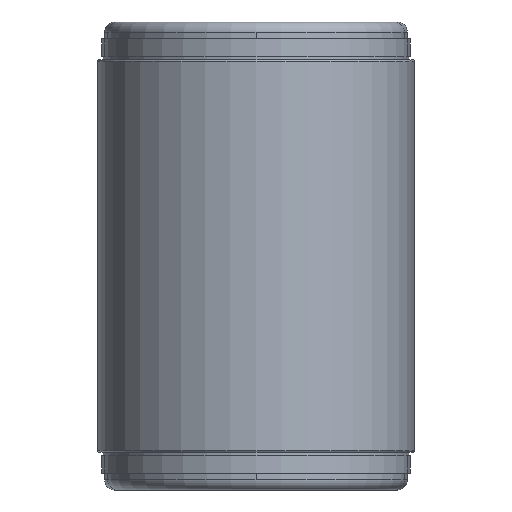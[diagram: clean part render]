
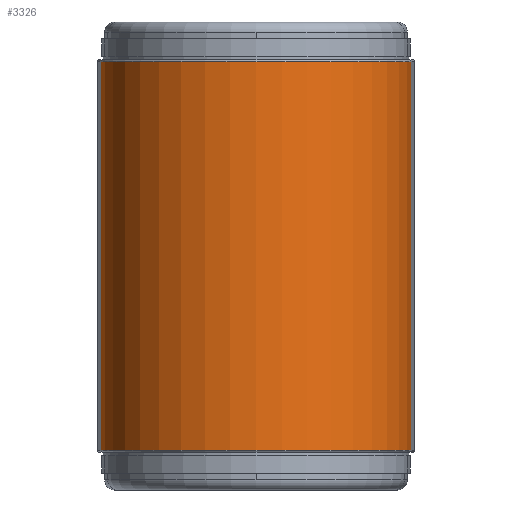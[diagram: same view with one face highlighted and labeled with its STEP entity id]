
A CAD part, left-side view. The second image highlights one B-rep face of the part: STEP entity #3326.
In plain terms, the highlighted cylindrical face has radius 75.3 mm (diameter 150.6 mm), a partial arc.
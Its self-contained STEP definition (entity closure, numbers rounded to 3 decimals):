
#149 = CARTESIAN_POINT ( 'NONE',  ( -4.374, 75.173, -94.25 ) ) ;
#422 = DIRECTION ( 'NONE',  ( 0., 0., 1. ) ) ;
#445 = ORIENTED_EDGE ( 'NONE', *, *, #4988, .F. ) ;
#792 = CYLINDRICAL_SURFACE ( 'NONE', #8493, 75.3 ) ;
#825 = CIRCLE ( 'NONE', #3563, 75.3 ) ;
#832 = ORIENTED_EDGE ( 'NONE', *, *, #4532, .T. ) ;
#836 = VERTEX_POINT ( 'NONE', #149 ) ;
#841 = DIRECTION ( 'NONE',  ( 1., 0., 0. ) ) ;
#939 = DIRECTION ( 'NONE',  ( 0., 0., -1. ) ) ;
#1203 = FACE_OUTER_BOUND ( 'NONE', #4446, .T. ) ;
#1366 = DIRECTION ( 'NONE',  ( 1., 0., 0. ) ) ;
#1445 = ORIENTED_EDGE ( 'NONE', *, *, #6999, .F. ) ;
#1890 = VECTOR ( 'NONE', #4626, 1000. ) ;
#2123 = VERTEX_POINT ( 'NONE', #7919 ) ;
#2347 = CIRCLE ( 'NONE', #3741, 75.3 ) ;
#2642 = DIRECTION ( 'NONE',  ( 0., 0., 1. ) ) ;
#2901 = VERTEX_POINT ( 'NONE', #7186 ) ;
#3096 = VERTEX_POINT ( 'NONE', #7289 ) ;
#3302 = CARTESIAN_POINT ( 'NONE',  ( -4.374, -75.173, 94.25 ) ) ;
#3326 = ADVANCED_FACE ( 'NONE', ( #1203 ), #792, .T. ) ;
#3563 = AXIS2_PLACEMENT_3D ( 'NONE', #7247, #422, #5178 ) ;
#3741 = AXIS2_PLACEMENT_3D ( 'NONE', #5456, #2642, #1366 ) ;
#4446 = EDGE_LOOP ( 'NONE', ( #832, #6620, #1445, #445 ) ) ;
#4532 = EDGE_CURVE ( 'NONE', #2123, #836, #7663, .T. ) ;
#4626 = DIRECTION ( 'NONE',  ( 0., 0., -1. ) ) ;
#4883 = DIRECTION ( 'NONE',  ( 0., 0., 1. ) ) ;
#4988 = EDGE_CURVE ( 'NONE', #2123, #3096, #825, .T. ) ;
#5178 = DIRECTION ( 'NONE',  ( 1., 0., 0. ) ) ;
#5456 = CARTESIAN_POINT ( 'NONE',  ( 0., 0., -94.25 ) ) ;
#5569 = CARTESIAN_POINT ( 'NONE',  ( 0., 0., 0. ) ) ;
#6148 = LINE ( 'NONE', #3302, #1890 ) ;
#6620 = ORIENTED_EDGE ( 'NONE', *, *, #6684, .T. ) ;
#6684 = EDGE_CURVE ( 'NONE', #836, #2901, #2347, .T. ) ;
#6999 = EDGE_CURVE ( 'NONE', #3096, #2901, #6148, .T. ) ;
#7186 = CARTESIAN_POINT ( 'NONE',  ( -4.374, -75.173, -94.25 ) ) ;
#7247 = CARTESIAN_POINT ( 'NONE',  ( 0., 0., 94.25 ) ) ;
#7289 = CARTESIAN_POINT ( 'NONE',  ( -4.374, -75.173, 94.25 ) ) ;
#7663 = LINE ( 'NONE', #8411, #7881 ) ;
#7881 = VECTOR ( 'NONE', #939, 1000. ) ;
#7919 = CARTESIAN_POINT ( 'NONE',  ( -4.374, 75.173, 94.25 ) ) ;
#8411 = CARTESIAN_POINT ( 'NONE',  ( -4.374, 75.173, 94.25 ) ) ;
#8493 = AXIS2_PLACEMENT_3D ( 'NONE', #5569, #4883, #841 ) ;
